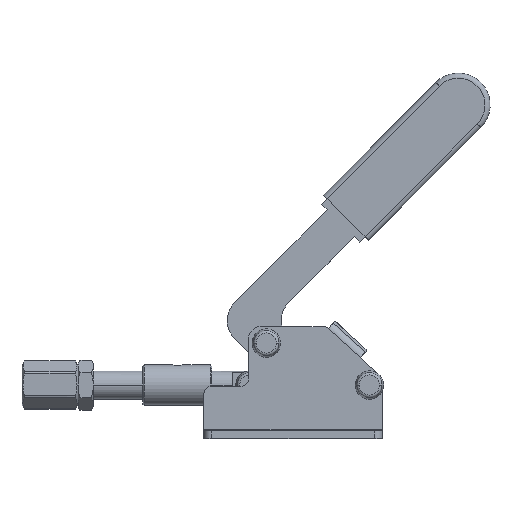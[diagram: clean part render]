
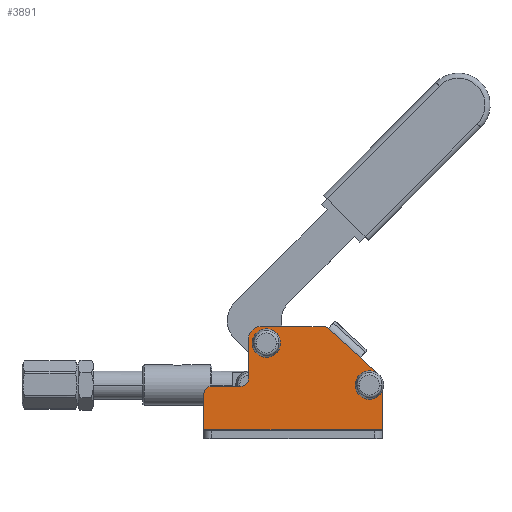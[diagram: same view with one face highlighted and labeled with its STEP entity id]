
A CAD part, top view. The second image highlights one B-rep face of the part: STEP entity #3891.
In plain terms, the highlighted planar face has unit normal (0, 0, 1).
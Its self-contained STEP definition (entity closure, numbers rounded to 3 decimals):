
#128 = VERTEX_POINT ( 'NONE', #1373 ) ;
#251 = DIRECTION ( 'NONE',  ( 0., 0., -1. ) ) ;
#523 = DIRECTION ( 'NONE',  ( 0., 1., 0. ) ) ;
#575 = ORIENTED_EDGE ( 'NONE', *, *, #9984, .F. ) ;
#729 = LINE ( 'NONE', #5937, #2622 ) ;
#777 = DIRECTION ( 'NONE',  ( 0., 1., 0. ) ) ;
#834 = AXIS2_PLACEMENT_3D ( 'NONE', #7420, #2635, #8239 ) ;
#1048 = ORIENTED_EDGE ( 'NONE', *, *, #7645, .T. ) ;
#1141 = CARTESIAN_POINT ( 'NONE',  ( -1.637, 22.488, 0. ) ) ;
#1154 = ORIENTED_EDGE ( 'NONE', *, *, #7448, .T. ) ;
#1168 = ORIENTED_EDGE ( 'NONE', *, *, #2455, .F. ) ;
#1366 = DIRECTION ( 'NONE',  ( 0., 0., -1. ) ) ;
#1373 = CARTESIAN_POINT ( 'NONE',  ( -52.5, 20.5, 0. ) ) ;
#1386 = EDGE_CURVE ( 'NONE', #3676, #3481, #4178, .T. ) ;
#1624 = CARTESIAN_POINT ( 'NONE',  ( -8.563, 28.784, 0. ) ) ;
#1662 = CARTESIAN_POINT ( 'NONE',  ( -8.2, 18., 0. ) ) ;
#1695 = ORIENTED_EDGE ( 'NONE', *, *, #10122, .F. ) ;
#1716 = VERTEX_POINT ( 'NONE', #2935 ) ;
#1754 = EDGE_CURVE ( 'NONE', #5610, #3569, #9929, .T. ) ;
#1828 = CARTESIAN_POINT ( 'NONE',  ( -21.142, 40.22, 0. ) ) ;
#1850 = DIRECTION ( 'NONE',  ( 0., 1., 0. ) ) ;
#1902 = AXIS2_PLACEMENT_3D ( 'NONE', #3535, #9157, #4333 ) ;
#2145 = EDGE_CURVE ( 'NONE', #4740, #1716, #6301, .T. ) ;
#2231 = ORIENTED_EDGE ( 'NONE', *, *, #2145, .T. ) ;
#2255 = AXIS2_PLACEMENT_3D ( 'NONE', #8794, #3974, #9587 ) ;
#2331 = AXIS2_PLACEMENT_3D ( 'NONE', #3930, #9549, #4747 ) ;
#2455 = EDGE_CURVE ( 'NONE', #5113, #8281, #5625, .T. ) ;
#2511 = CARTESIAN_POINT ( 'NONE',  ( -42.3, 34.5, 0. ) ) ;
#2586 = VERTEX_POINT ( 'NONE', #4417 ) ;
#2612 = ORIENTED_EDGE ( 'NONE', *, *, #7391, .F. ) ;
#2622 = VECTOR ( 'NONE', #6756, 1000. ) ;
#2635 = DIRECTION ( 'NONE',  ( 0., 0., 1. ) ) ;
#2935 = CARTESIAN_POINT ( 'NONE',  ( -52.5, 36., 0. ) ) ;
#2945 = CARTESIAN_POINT ( 'NONE',  ( -47.5, 41., 0. ) ) ;
#3096 = DIRECTION ( 'NONE',  ( 0., 0., 1. ) ) ;
#3254 = AXIS2_PLACEMENT_3D ( 'NONE', #9410, #4588, #10185 ) ;
#3481 = VERTEX_POINT ( 'NONE', #9139 ) ;
#3515 = CIRCLE ( 'NONE', #1902, 3. ) ;
#3535 = CARTESIAN_POINT ( 'NONE',  ( -23.16, 38., 0. ) ) ;
#3569 = VERTEX_POINT ( 'NONE', #5308 ) ;
#3640 = CARTESIAN_POINT ( 'NONE',  ( -70., 41., 0. ) ) ;
#3676 = VERTEX_POINT ( 'NONE', #8745 ) ;
#3709 = LINE ( 'NONE', #6661, #9839 ) ;
#3765 = EDGE_CURVE ( 'NONE', #7760, #9950, #4347, .T. ) ;
#3814 = EDGE_LOOP ( 'NONE', ( #7215, #5846, #8749, #1048, #7607, #10328, #1168, #7393, #8362, #5586, #2231, #575, #1154 ) ) ;
#3891 = ADVANCED_FACE ( 'NONE', ( #9744, #5475, #7616 ), #4170, .F. ) ;
#3930 = CARTESIAN_POINT ( 'NONE',  ( -47.5, 36., 0. ) ) ;
#3974 = DIRECTION ( 'NONE',  ( 0., 0., 1. ) ) ;
#4064 = DIRECTION ( 'NONE',  ( 0., 0., 1. ) ) ;
#4130 = VERTEX_POINT ( 'NONE', #5401 ) ;
#4170 = PLANE ( 'NONE',  #5968 ) ;
#4178 = LINE ( 'NONE', #6395, #6569 ) ;
#4333 = DIRECTION ( 'NONE',  ( -1., 0., 0. ) ) ;
#4347 = CIRCLE ( 'NONE', #8859, 3.2 ) ;
#4417 = CARTESIAN_POINT ( 'NONE',  ( -1.8, 18., 0. ) ) ;
#4512 = CARTESIAN_POINT ( 'NONE',  ( -5., 18., 0. ) ) ;
#4538 = EDGE_CURVE ( 'NONE', #4130, #5328, #3709, .T. ) ;
#4580 = LINE ( 'NONE', #3640, #5086 ) ;
#4588 = DIRECTION ( 'NONE',  ( 0., 0., 1. ) ) ;
#4676 = EDGE_CURVE ( 'NONE', #4740, #9720, #4580, .T. ) ;
#4740 = VERTEX_POINT ( 'NONE', #2945 ) ;
#4747 = DIRECTION ( 'NONE',  ( -1., 0., 0. ) ) ;
#4970 = EDGE_LOOP ( 'NONE', ( #10301, #7961 ) ) ;
#4979 = LINE ( 'NONE', #9340, #7109 ) ;
#5068 = CARTESIAN_POINT ( 'NONE',  ( -23.16, 41., 0. ) ) ;
#5086 = VECTOR ( 'NONE', #8450, 1000. ) ;
#5113 = VERTEX_POINT ( 'NONE', #1624 ) ;
#5134 = CARTESIAN_POINT ( 'NONE',  ( 0., 18.788, 0. ) ) ;
#5144 = AXIS2_PLACEMENT_3D ( 'NONE', #4512, #10104, #5322 ) ;
#5306 = EDGE_LOOP ( 'NONE', ( #2612, #1695 ) ) ;
#5308 = CARTESIAN_POINT ( 'NONE',  ( -55.5, 17.5, 0. ) ) ;
#5322 = DIRECTION ( 'NONE',  ( 1., 0., 0. ) ) ;
#5328 = VERTEX_POINT ( 'NONE', #5134 ) ;
#5381 = DIRECTION ( 'NONE',  ( 1., 0., 0. ) ) ;
#5401 = CARTESIAN_POINT ( 'NONE',  ( 0., 0.5, 0. ) ) ;
#5413 = CIRCLE ( 'NONE', #3254, 3. ) ;
#5475 = FACE_BOUND ( 'NONE', #4970, .T. ) ;
#5516 = CIRCLE ( 'NONE', #2255, 3.2 ) ;
#5586 = ORIENTED_EDGE ( 'NONE', *, *, #4676, .F. ) ;
#5610 = VERTEX_POINT ( 'NONE', #9675 ) ;
#5625 = LINE ( 'NONE', #5901, #9640 ) ;
#5846 = ORIENTED_EDGE ( 'NONE', *, *, #6086, .T. ) ;
#5852 = DIRECTION ( 'NONE',  ( -1., 0., 0. ) ) ;
#5901 = CARTESIAN_POINT ( 'NONE',  ( -22., 41., 0. ) ) ;
#5937 = CARTESIAN_POINT ( 'NONE',  ( -22., 41., 0. ) ) ;
#5968 = AXIS2_PLACEMENT_3D ( 'NONE', #9843, #251, #5852 ) ;
#6023 = VECTOR ( 'NONE', #10298, 1000. ) ;
#6086 = EDGE_CURVE ( 'NONE', #5610, #3481, #5413, .T. ) ;
#6112 = CIRCLE ( 'NONE', #10141, 3.2 ) ;
#6164 = CARTESIAN_POINT ( 'NONE',  ( -55.5, 20.5, 0. ) ) ;
#6183 = CARTESIAN_POINT ( 'NONE',  ( -70., 17.5, 0. ) ) ;
#6301 = CIRCLE ( 'NONE', #2331, 5. ) ;
#6327 = CARTESIAN_POINT ( 'NONE',  ( -70., 0.5, 0. ) ) ;
#6395 = CARTESIAN_POINT ( 'NONE',  ( -70., 0., 0. ) ) ;
#6492 = VERTEX_POINT ( 'NONE', #1828 ) ;
#6569 = VECTOR ( 'NONE', #777, 1000. ) ;
#6661 = CARTESIAN_POINT ( 'NONE',  ( 0., 0., 0. ) ) ;
#6712 = DIRECTION ( 'NONE',  ( 0.74, -0.673, 0. ) ) ;
#6756 = DIRECTION ( 'NONE',  ( 0.74, -0.673, 0. ) ) ;
#6781 = CIRCLE ( 'NONE', #7286, 3. ) ;
#6969 = DIRECTION ( 'NONE',  ( -1., 0., 0. ) ) ;
#7109 = VECTOR ( 'NONE', #523, 1000. ) ;
#7161 = EDGE_CURVE ( 'NONE', #5328, #8281, #8032, .T. ) ;
#7215 = ORIENTED_EDGE ( 'NONE', *, *, #1754, .F. ) ;
#7237 = EDGE_CURVE ( 'NONE', #6492, #9720, #3515, .T. ) ;
#7279 = CIRCLE ( 'NONE', #5144, 3.2 ) ;
#7286 = AXIS2_PLACEMENT_3D ( 'NONE', #6164, #1366, #6969 ) ;
#7391 = EDGE_CURVE ( 'NONE', #2586, #7739, #7279, .T. ) ;
#7393 = ORIENTED_EDGE ( 'NONE', *, *, #9781, .F. ) ;
#7420 = CARTESIAN_POINT ( 'NONE',  ( -5., 18.788, 0. ) ) ;
#7448 = EDGE_CURVE ( 'NONE', #128, #3569, #6781, .T. ) ;
#7607 = ORIENTED_EDGE ( 'NONE', *, *, #4538, .T. ) ;
#7616 = FACE_OUTER_BOUND ( 'NONE', #3814, .T. ) ;
#7645 = EDGE_CURVE ( 'NONE', #3676, #4130, #7906, .T. ) ;
#7671 = EDGE_CURVE ( 'NONE', #9950, #7760, #5516, .T. ) ;
#7739 = VERTEX_POINT ( 'NONE', #1662 ) ;
#7760 = VERTEX_POINT ( 'NONE', #2511 ) ;
#7892 = CARTESIAN_POINT ( 'NONE',  ( -5., 18., 0. ) ) ;
#7906 = LINE ( 'NONE', #6327, #6023 ) ;
#7961 = ORIENTED_EDGE ( 'NONE', *, *, #7671, .F. ) ;
#8032 = CIRCLE ( 'NONE', #834, 5. ) ;
#8239 = DIRECTION ( 'NONE',  ( -1., 0., 0. ) ) ;
#8281 = VERTEX_POINT ( 'NONE', #1141 ) ;
#8321 = VECTOR ( 'NONE', #5381, 1000. ) ;
#8362 = ORIENTED_EDGE ( 'NONE', *, *, #7237, .T. ) ;
#8450 = DIRECTION ( 'NONE',  ( 1., 0., 0. ) ) ;
#8459 = CARTESIAN_POINT ( 'NONE',  ( -48.7, 34.5, 0. ) ) ;
#8692 = DIRECTION ( 'NONE',  ( 1., 0., 0. ) ) ;
#8745 = CARTESIAN_POINT ( 'NONE',  ( -70., 0.5, 0. ) ) ;
#8749 = ORIENTED_EDGE ( 'NONE', *, *, #1386, .F. ) ;
#8794 = CARTESIAN_POINT ( 'NONE',  ( -45.5, 34.5, 0. ) ) ;
#8859 = AXIS2_PLACEMENT_3D ( 'NONE', #8883, #4064, #9677 ) ;
#8883 = CARTESIAN_POINT ( 'NONE',  ( -45.5, 34.5, 0. ) ) ;
#9139 = CARTESIAN_POINT ( 'NONE',  ( -70., 14.5, 0. ) ) ;
#9157 = DIRECTION ( 'NONE',  ( 0., 0., 1. ) ) ;
#9340 = CARTESIAN_POINT ( 'NONE',  ( -52.5, 17.5, 0. ) ) ;
#9410 = CARTESIAN_POINT ( 'NONE',  ( -67., 14.5, 0. ) ) ;
#9549 = DIRECTION ( 'NONE',  ( 0., 0., 1. ) ) ;
#9587 = DIRECTION ( 'NONE',  ( 1., 0., 0. ) ) ;
#9640 = VECTOR ( 'NONE', #6712, 1000. ) ;
#9675 = CARTESIAN_POINT ( 'NONE',  ( -67., 17.5, 0. ) ) ;
#9677 = DIRECTION ( 'NONE',  ( 1., 0., 0. ) ) ;
#9720 = VERTEX_POINT ( 'NONE', #5068 ) ;
#9744 = FACE_BOUND ( 'NONE', #5306, .T. ) ;
#9781 = EDGE_CURVE ( 'NONE', #6492, #5113, #729, .T. ) ;
#9839 = VECTOR ( 'NONE', #1850, 1000. ) ;
#9843 = CARTESIAN_POINT ( 'NONE',  ( -70., 0., 0. ) ) ;
#9929 = LINE ( 'NONE', #6183, #8321 ) ;
#9950 = VERTEX_POINT ( 'NONE', #8459 ) ;
#9984 = EDGE_CURVE ( 'NONE', #128, #1716, #4979, .T. ) ;
#10104 = DIRECTION ( 'NONE',  ( 0., 0., 1. ) ) ;
#10122 = EDGE_CURVE ( 'NONE', #7739, #2586, #6112, .T. ) ;
#10141 = AXIS2_PLACEMENT_3D ( 'NONE', #7892, #3096, #8692 ) ;
#10185 = DIRECTION ( 'NONE',  ( -1., 0., 0. ) ) ;
#10298 = DIRECTION ( 'NONE',  ( 1., 0., 0. ) ) ;
#10301 = ORIENTED_EDGE ( 'NONE', *, *, #3765, .F. ) ;
#10328 = ORIENTED_EDGE ( 'NONE', *, *, #7161, .T. ) ;
